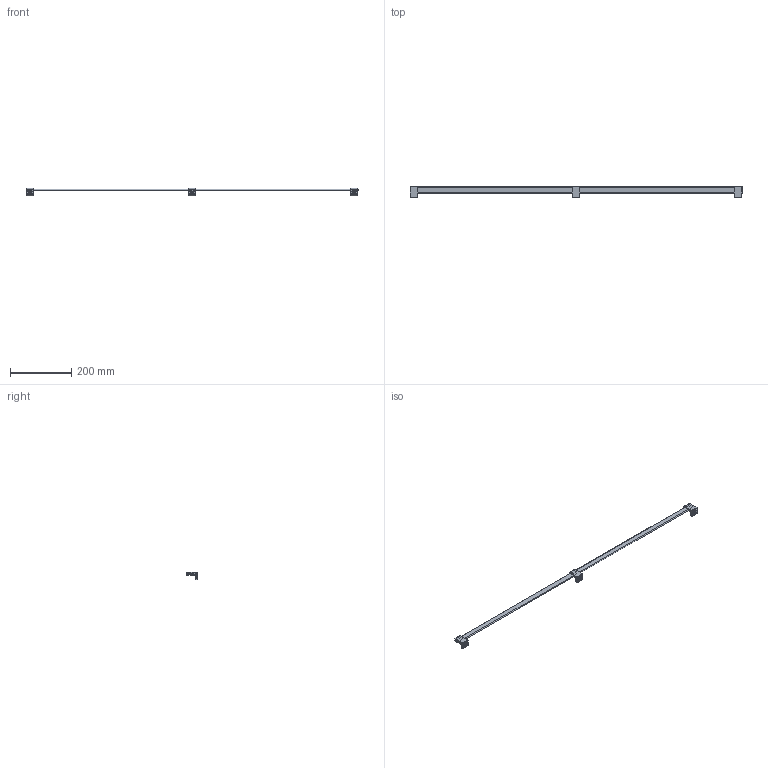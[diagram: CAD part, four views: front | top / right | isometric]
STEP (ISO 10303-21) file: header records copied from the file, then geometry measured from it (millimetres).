
FILE_DESCRIPTION((''),'2;1');
FILE_NAME('238438-01_SW0001','2023-01-19T07:23:41',('1ke04'),('Kesseboehmer'),'CREO PARAMETRIC BY PTC INC, 2020414','CREO PARAMETRIC BY PTC INC, 2020414','');
FILE_SCHEMA(('AUTOMOTIVE_DESIGN { 1 0 10303 214 1 1 1 1 }'));
Length unit declared in the file: millimetre
Products named in the file (1): 238438-01_SW0001
Bounding box: 1088 x 38 x 23.6 mm (x, y, z)
Volume: 101885.8 mm3; surface area: 67274.2 mm2
Topology: 1 solids, 1 shells, 815 faces, 2104 edges, 1280 vertices
Faces by surface type: plane 632, cylinder 111, cone 72
Entity records: 24820 total; most frequent: CARTESIAN_POINT 4404, ORIENTED_EDGE 4208, DIRECTION 4046, EDGE_CURVE 2104, VECTOR 1741, LINE 1741, VERTEX_POINT 1280, AXIS2_PLACEMENT_3D 1151
